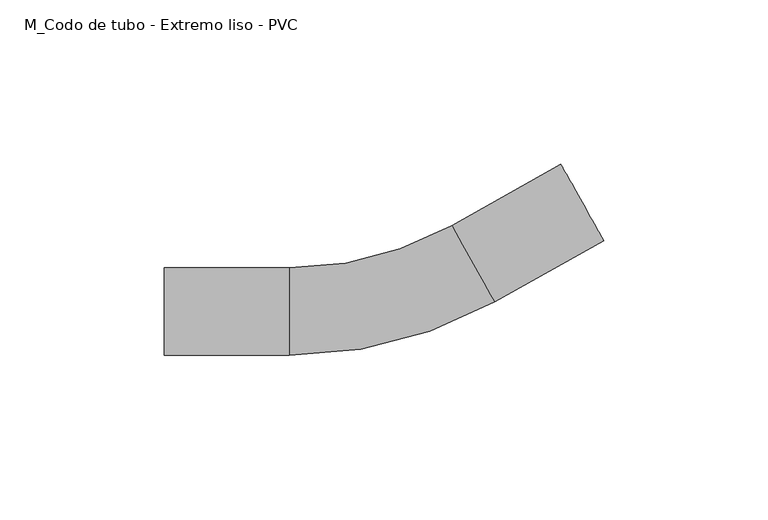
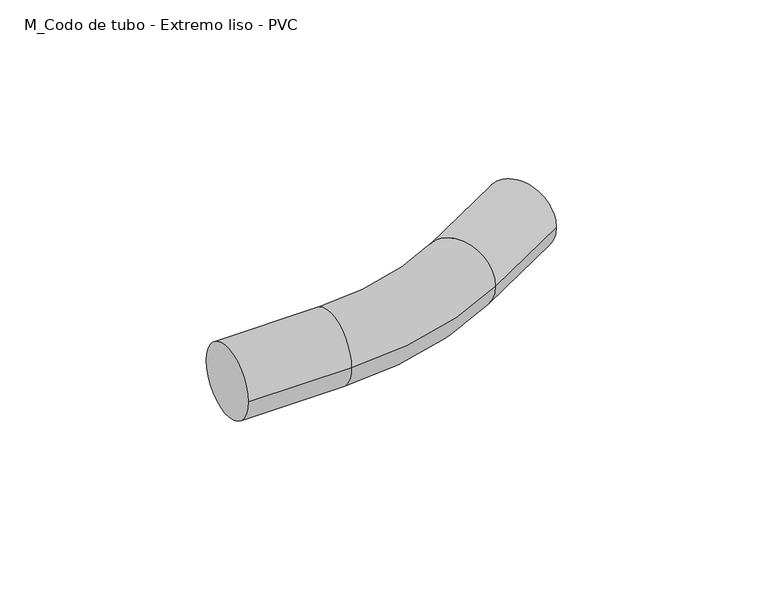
"""IFC4 building model written with IfcOpenShell, lengths in millimetres: cable carrier fitting geometry, M_Codo de tubo - Extremo liso - PVC : CODO ILUMINACION."""

from ifc_helpers import new_model, si_unit, point, frame, origin, place, context, project, spatial, circle_curve, ellipse_curve, trimmed, source, transform, mapped, element, save
from ifc_brep_helpers import plane_surface, cylinder_surface, revolved_surface, advanced_brep


def m_codo_de_tubo_extremo_liso_pvc_251627db(model_context):
    return source(origin(), model_context, "Body", "AdvancedBrep", [
        advanced_brep(
        [(-67.9530533, -13.335, 0.0), (-67.9530533, 13.335, 0.0), (-29.8530533, -13.335, 0.0), (-29.8530533, 13.335, 0.0), (19.5193615, 26.2301648, 0.0), (32.5611315, 2.9664347, 0.0), (65.7950316, 21.5975347, 0.0), (52.7532616, 44.8612647, 0.0)],
        [
            (0, 1, circle_curve(frame((-67.9530533, 0.0, 0.0), z_axis=(-1.0, 0.0, 0.0), x_axis=(0.0, 1.0, 0.0)), 13.335)),
            (1, 0, circle_curve(frame((-67.9530533, 0.0, 0.0), z_axis=(-1.0, 0.0, 0.0), x_axis=(0.0, 1.0, 0.0)), 13.335)),
            (0, 2),
            (2, 3, circle_curve(frame((-29.8530533, 0.0, 0.0), z_axis=(-1.0, 0.0, 0.0), x_axis=(0.0, 1.0, 0.0)), 13.335)),
            (3, 1),
            (3, 2, circle_curve(frame((-29.8530533, 0.0, 0.0), z_axis=(-1.0, 0.0, 0.0), x_axis=(0.0, 1.0, 0.0)), 13.335)),
            (4, 3, circle_curve(frame((-29.8530533, 114.3, 0.0), z_axis=(0.0, 0.0, -1.0), x_axis=(0.0, -1.0, 0.0)), 100.965)),
            (2, 5, circle_curve(frame((-29.8530533, 114.3, 0.0), z_axis=(0.0, 0.0, 1.0), x_axis=(0.0, -1.0, 0.0)), 127.635)),
            (5, 4, circle_curve(frame((26.0402465, 14.5982997, 0.0), z_axis=(-0.8722808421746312, -0.48900524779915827, 0.0), x_axis=(-0.48900524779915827, 0.8722808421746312, 0.0)), 13.335)),
            (4, 5, circle_curve(frame((26.0402465, 14.5982997, 0.0), z_axis=(-0.8722808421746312, -0.48900524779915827, 0.0), x_axis=(-0.48900524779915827, 0.8722808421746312, 0.0)), 13.335)),
            (6, 7, circle_curve(frame((59.2741466, 33.2293997, 0.0), z_axis=(0.8722808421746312, 0.48900524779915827, 0.0), x_axis=(-0.48900524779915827, 0.8722808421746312, 0.0)), 13.335)),
            (7, 6, circle_curve(frame((59.2741466, 33.2293997, 0.0), z_axis=(0.8722808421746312, 0.48900524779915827, 0.0), x_axis=(-0.48900524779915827, 0.8722808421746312, 0.0)), 13.335)),
            (5, 6),
            (7, 4),
        ],
        [
            plane_surface(frame((-67.9530533, 0.0, 0.0), z_axis=(-1.0, 0.0, 0.0), x_axis=(0.0, 0.0, 1.0))),
            cylinder_surface(frame((-67.9530533, 0.0, 0.0), z_axis=(-1.0, 0.0, 0.0), x_axis=(0.0, 1.0, 0.0)), 13.335),
            revolved_surface(trimmed(ellipse_curve(frame((-29.8530533, 0.0, 0.0), z_axis=(-1.0, 0.0, 0.0), x_axis=(0.0, 1.0, 0.0)), 13.335, 13.335), [point((-29.8530533, -13.335, 0.0))], [point((-29.8530533, 13.335, 0.0))], True, "CARTESIAN"), (-29.8530533, 114.3, 0.0), (0.0, 0.0, 1.0)),
            revolved_surface(trimmed(ellipse_curve(frame((-29.8530533, 0.0, 0.0), z_axis=(-1.0, 0.0, 0.0), x_axis=(0.0, 1.0, 0.0)), 13.335, 13.335), [point((-29.8530533, 13.335, 0.0))], [point((-29.8530533, -13.335, 0.0))], True, "CARTESIAN"), (-29.8530533, 114.3, 0.0), (0.0, 0.0, 1.0)),
            plane_surface(frame((59.2741466, 33.2293997, 0.0), z_axis=(0.8722808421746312, 0.48900524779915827, 0.0), x_axis=(0.0, 0.0, 1.0))),
            cylinder_surface(frame((26.0402465, 14.5982997, 0.0), z_axis=(-0.8722808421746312, -0.48900524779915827, 0.0), x_axis=(-0.48900524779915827, 0.8722808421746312, 0.0)), 13.335),
        ],
        [
            (0, [[1, 2]]),
            (1, [[-1, 3, 4, 5]]),
            (1, [[-2, -5, 6, -3]]),
            (2, [[7, -4, 8, 9]]),
            (3, [[-8, -6, -7, 10]]),
            (4, [[11, 12]]),
            (5, [[-9, 13, -12, 14]]),
            (5, [[-10, -14, -11, -13]]),
        ],
    ),
    ])


if __name__ == "__main__":
    model = new_model("IFC4")
    model_context = context("Model", 3, world=origin())
    ifc_project = project(units=[si_unit("LENGTHUNIT", "METRE", prefix="MILLI")], contexts=[model_context])
    site = spatial("IfcSite", under=ifc_project)
    building = spatial("IfcBuilding", under=site)
    placement = place(None, origin())
    m_codo_de_tubo_extremo_liso_pvc_shape = m_codo_de_tubo_extremo_liso_pvc_251627db(model_context)
    element("IfcCableCarrierFitting", 1, ObjectType="M_Codo de tubo - Extremo liso - PVC : CODO ILUMINACION", at=placement, inside=building, context=model_context, shape_type="MappedRepresentation", body=[
        mapped(m_codo_de_tubo_extremo_liso_pvc_shape, transform((0.0, 0.0, 0.0), x_axis=(1.0, 0.0, 0.0), y_axis=(0.0, 1.0, 0.0), z_axis=(0.0, 0.0, 1.0))),
    ])
    save(model, "model.ifc")
